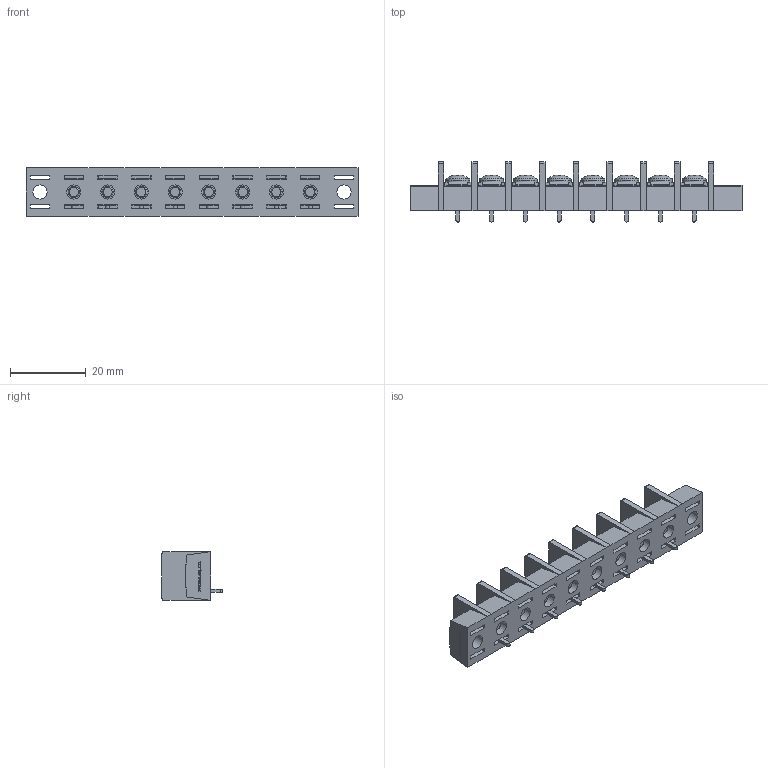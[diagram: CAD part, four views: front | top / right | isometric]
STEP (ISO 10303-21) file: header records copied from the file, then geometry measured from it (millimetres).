
FILE_DESCRIPTION(/* description */ ('Alibre Inc.'),/* implementation_level */ '2;1');
FILE_NAME(/* name */ 'export0',/* time_stamp */ '2015-10-20T19:52:45+09:00',/* author */ (''),/* organization */ (''),/* preprocessor_version */ 'ST-DEVELOPER v14',/* originating_system */ 'Alibre',/* authorisation */ '');
FILE_SCHEMA (('CONFIG_CONTROL_DESIGN'));
Length unit declared in the file: centimetre
Products named in the file (1): ID_1
Bounding box: 87.41 x 15.8 x 12.8 mm (x, y, z)
Volume: 7602.1 mm3; surface area: 9381.9 mm2
Topology: 1 solids, 137 shells, 2660 faces, 6838 edges, 4526 vertices
Faces by surface type: plane 1990, bspline 520, cylinder 86, cone 40, torus 16, sphere 8
Full cylindrical faces by diameter (mm): 3 x16, 3.7 x10, 4.6 x10, 6.3 x8
Entity records: 77003 total; most frequent: CARTESIAN_POINT 18617, ORIENTED_EDGE 13488, DIRECTION 8072, EDGE_CURVE 6744, VECTOR 5204, LINE 5204, VERTEX_POINT 4500, EDGE_LOOP 2926
